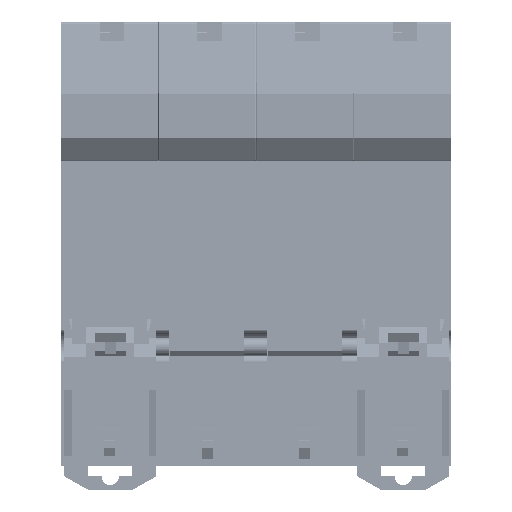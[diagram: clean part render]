
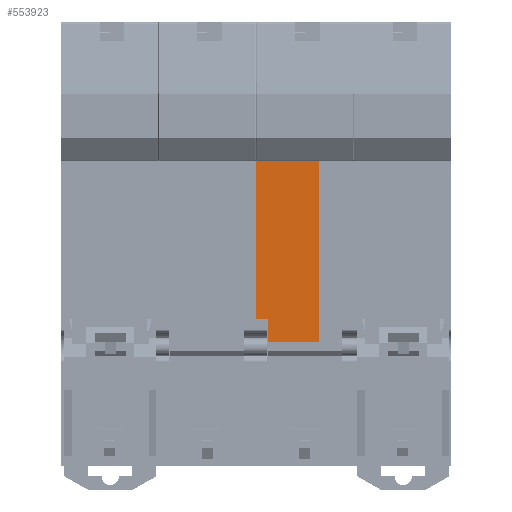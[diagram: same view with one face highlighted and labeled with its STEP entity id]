
A CAD part, left-side view. The second image highlights one B-rep face of the part: STEP entity #553923.
In plain terms, the highlighted planar face has unit normal (-1, 0, 0).
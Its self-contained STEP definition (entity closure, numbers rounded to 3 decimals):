
#25849 = ORIENTED_EDGE ( 'NONE', *, *, #803481, .T. ) ;
#27858 = VECTOR ( 'NONE', #462049, 1000. ) ;
#30012 = DIRECTION ( 'NONE',  ( 0., 0., 1. ) ) ;
#38173 = LINE ( 'NONE', #562900, #345925 ) ;
#48235 = ORIENTED_EDGE ( 'NONE', *, *, #62635, .T. ) ;
#51495 = CARTESIAN_POINT ( 'NONE',  ( -2.5, 35.6, 58.1 ) ) ;
#56587 = CARTESIAN_POINT ( 'NONE',  ( -2.5, 35.6, 58.1 ) ) ;
#62635 = EDGE_CURVE ( 'NONE', #732390, #748422, #241199, .T. ) ;
#67311 = CARTESIAN_POINT ( 'NONE',  ( -2.5, 33.45, 26.9 ) ) ;
#70691 = EDGE_CURVE ( 'NONE', #520663, #235808, #675706, .T. ) ;
#112982 = VECTOR ( 'NONE', #804818, 1000. ) ;
#116372 = DIRECTION ( 'NONE',  ( 0., 1., 0. ) ) ;
#150520 = ORIENTED_EDGE ( 'NONE', *, *, #278257, .T. ) ;
#150743 = VECTOR ( 'NONE', #116372, 1000. ) ;
#179069 = VERTEX_POINT ( 'NONE', #67311 ) ;
#196980 = CARTESIAN_POINT ( 'NONE',  ( -2.5, 24.1, 22.6 ) ) ;
#204265 = EDGE_CURVE ( 'NONE', #748422, #255270, #280777, .T. ) ;
#235808 = VERTEX_POINT ( 'NONE', #196980 ) ;
#241199 = LINE ( 'NONE', #766164, #150743 ) ;
#255270 = VERTEX_POINT ( 'NONE', #635435 ) ;
#278257 = EDGE_CURVE ( 'NONE', #179069, #520663, #38173, .T. ) ;
#280777 = LINE ( 'NONE', #676602, #776132 ) ;
#284580 = CARTESIAN_POINT ( 'NONE',  ( -2.5, 33.45, 22.6 ) ) ;
#345925 = VECTOR ( 'NONE', #700403, 1000. ) ;
#373829 = DIRECTION ( 'NONE',  ( 0., 0., 1. ) ) ;
#403100 = EDGE_CURVE ( 'NONE', #255270, #179069, #651606, .T. ) ;
#425623 = FACE_OUTER_BOUND ( 'NONE', #798509, .T. ) ;
#438392 = DIRECTION ( 'NONE',  ( 1., 0., 0. ) ) ;
#445862 = VECTOR ( 'NONE', #30012, 1000. ) ;
#462049 = DIRECTION ( 'NONE',  ( 0., -1., 0. ) ) ;
#478611 = DIRECTION ( 'NONE',  ( 0., 0., -1. ) ) ;
#520663 = VERTEX_POINT ( 'NONE', #284580 ) ;
#553923 = ADVANCED_FACE ( 'NONE', ( #425623 ), #692513, .F. ) ;
#562900 = CARTESIAN_POINT ( 'NONE',  ( -2.5, 33.45, 58.1 ) ) ;
#608423 = AXIS2_PLACEMENT_3D ( 'NONE', #51495, #438392, #373829 ) ;
#635435 = CARTESIAN_POINT ( 'NONE',  ( -2.5, 35.6, 26.9 ) ) ;
#651606 = LINE ( 'NONE', #720375, #27858 ) ;
#675392 = LINE ( 'NONE', #808755, #445862 ) ;
#675706 = LINE ( 'NONE', #792161, #112982 ) ;
#676602 = CARTESIAN_POINT ( 'NONE',  ( -2.5, 35.6, 58.1 ) ) ;
#677749 = ORIENTED_EDGE ( 'NONE', *, *, #403100, .T. ) ;
#692513 = PLANE ( 'NONE',  #608423 ) ;
#695922 = ORIENTED_EDGE ( 'NONE', *, *, #70691, .T. ) ;
#700403 = DIRECTION ( 'NONE',  ( 0., 0., -1. ) ) ;
#720375 = CARTESIAN_POINT ( 'NONE',  ( -2.5, 35.6, 26.9 ) ) ;
#732390 = VERTEX_POINT ( 'NONE', #740553 ) ;
#740553 = CARTESIAN_POINT ( 'NONE',  ( -2.5, 24.1, 58.1 ) ) ;
#748422 = VERTEX_POINT ( 'NONE', #56587 ) ;
#756273 = ORIENTED_EDGE ( 'NONE', *, *, #204265, .T. ) ;
#766164 = CARTESIAN_POINT ( 'NONE',  ( -2.5, 56.7, 58.1 ) ) ;
#776132 = VECTOR ( 'NONE', #478611, 1000. ) ;
#792161 = CARTESIAN_POINT ( 'NONE',  ( -2.5, 35.6, 22.6 ) ) ;
#798509 = EDGE_LOOP ( 'NONE', ( #677749, #150520, #695922, #25849, #48235, #756273 ) ) ;
#803481 = EDGE_CURVE ( 'NONE', #235808, #732390, #675392, .T. ) ;
#804818 = DIRECTION ( 'NONE',  ( 0., -1., 0. ) ) ;
#808755 = CARTESIAN_POINT ( 'NONE',  ( -2.5, 24.1, 58.1 ) ) ;
